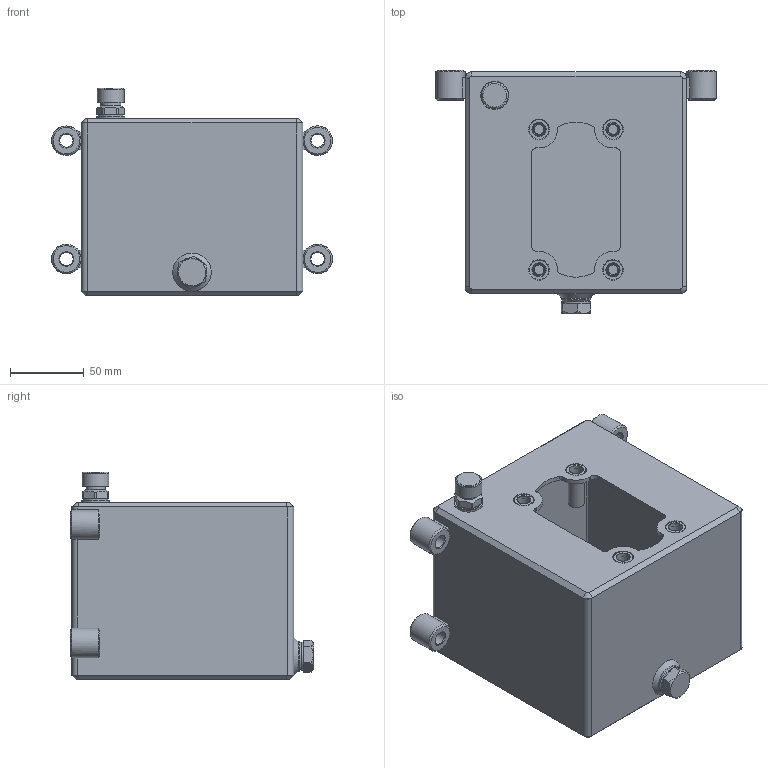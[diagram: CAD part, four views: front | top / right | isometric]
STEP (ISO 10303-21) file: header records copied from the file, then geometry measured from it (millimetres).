
FILE_DESCRIPTION(/* description */ ('Unknown'),/* implementation_level */ '2;1');
FILE_NAME(/* name */ 'SR02FE150',/* time_stamp */ '2024-11-28T10:28:43+01:00',/* author */ ('Unknown'),/* organization */ ('Unknown'),/* preprocessor_version */ 'ST-DEVELOPER v19.4',/* originating_system */ 'Solid Edge',/* authorisation */ 'Unknown');
FILE_SCHEMA (('AUTOMOTIVE_DESIGN {1 0 10303 214 3 1 1}'));
Length unit declared in the file: millimetre
Products named in the file (1): SR02FE150
Bounding box: 190 x 164.5 x 140.6 mm (x, y, z)
Volume: 346877.7 mm3; surface area: 229933.5 mm2
Topology: 2 solids, 2 shells, 263 faces, 616 edges, 383 vertices
Faces by surface type: plane 125, cylinder 73, cone 46, torus 19
Full cylindrical faces by diameter (mm): 5.8 x1, 6.647 x8, 9 x4, 9.15 x4, 10.5 x1, 10.88 x4, 10.9 x4, 13.157 x1, 13.2 x4, 13.5 x1, 15 x1, 16.8 x1, 17 x1, 18 x1, 19 x2, 20 x6, 20.1 x1
Entity records: 8471 total; most frequent: DIRECTION 1225, CARTESIAN_POINT 1144, ORIENTED_EDGE 944, AXIS2_PLACEMENT_3D 503, EDGE_CURVE 472, EDGE_LOOP 402, FACE_BOUND 402, VERTEX_POINT 340
